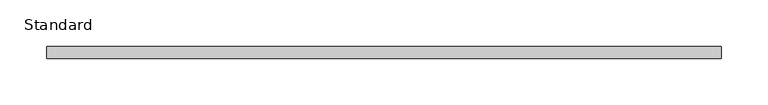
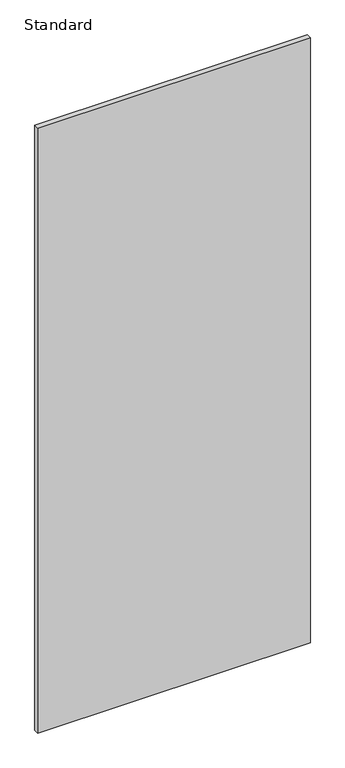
"""IFC4 building model written with IfcOpenShell, lengths in millimetres: furniture geometry, X_Partition-Compact Laminate-Duracube-Door : Standard."""

import ifcopenshell
import ifcopenshell.guid

model = None  # the IFC model being written
_history = None  # IfcOwnerHistory: only IFC2X3 demands one
_inside = {}  # id of a spatial element -> (the spatial element, [elements in it])
_under = {}  # id of a project, library or spatial element -> (it, [spatial elements below it])
_declared = {}  # id of a project -> (the project, [libraries it declares])
_typed = {}  # id of a type object -> (the type object, [elements of that type])
_made_of = {}  # id of a material, layer set ... -> (it, [elements and type objects made of it])


def new_model(schema):
    """Start an empty IFC model of exactly this schema.

    Asked for "IFC4X3", IfcOpenShell would pick the latest addendum, in which some entities
    have other attributes; the version numbers below select the first issue.
    IFC2X3 requires an IfcOwnerHistory on every rooted entity: one is made here for all.
    """
    global model, _history
    if schema == "IFC4X3":
        model = ifcopenshell.file(schema_version=(4, 3, 0, 0))
    else:
        model = ifcopenshell.file(schema=schema)
    _inside.clear()
    _under.clear()
    _declared.clear()
    _typed.clear()
    _made_of.clear()
    _history = None
    if model.schema == "IFC2X3":
        org = make("IfcOrganization", Name="unknown")
        user = make(
            "IfcPersonAndOrganization",
            ThePerson=make("IfcPerson", FamilyName="unknown"),
            TheOrganization=org,
        )
        app = make(
            "IfcApplication",
            ApplicationDeveloper=org,
            Version="unknown",
            ApplicationFullName="unknown",
            ApplicationIdentifier="unknown",
        )
        _history = make(
            "IfcOwnerHistory",
            OwningUser=user,
            OwningApplication=app,
            ChangeAction="ADDED",
            CreationDate=0,
        )
    return model


def make(cls, **values):
    """One entity of the class cls with the attributes given. An attribute that is None is left unset."""
    return model.create_entity(
        cls, **{name: value for name, value in values.items() if value is not None}
    )


def rooted(cls, **values):
    """An entity with a GlobalId (a new one), such as an element, a storey or a relation."""
    return make(cls, GlobalId=ifcopenshell.guid.new(), OwnerHistory=_history, **values)


def si_unit(unit_type, name, prefix=None):
    """IfcSIUnit, for example si_unit("LENGTHUNIT", "METRE", prefix="MILLI")."""
    return make("IfcSIUnit", UnitType=unit_type, Prefix=prefix, Name=name)


def assignment(units):
    """IfcUnitAssignment: the units of a project."""
    return None if units is None else make("IfcUnitAssignment", Units=units)


def point(xyz):
    """IfcCartesianPoint."""
    return None if xyz is None else make("IfcCartesianPoint", Coordinates=xyz)


def direction(xyz):
    """IfcDirection."""
    return None if xyz is None else make("IfcDirection", DirectionRatios=xyz)


def frame(location, z_axis=None, x_axis=None):
    """IfcAxis2Placement3D, a coordinate frame: its origin and axes. An axis left out is left unset."""
    return make(
        "IfcAxis2Placement3D",
        Location=point(location),
        Axis=direction(z_axis),
        RefDirection=direction(x_axis),
    )


def origin():
    """The frame at (0, 0, 0) with its axes left unset."""
    return frame((0.0, 0.0, 0.0))


def place(relative_to, where):
    """IfcLocalPlacement: puts the frame where relative to a parent placement (None: the world)."""
    return make(
        "IfcLocalPlacement", PlacementRelTo=relative_to, RelativePlacement=where
    )


def context(
    kind, dimensions, precision=None, world=None, true_north=None, identifier=None
):
    """IfcGeometricRepresentationContext, for example the 3D "Model" context."""
    return make(
        "IfcGeometricRepresentationContext",
        ContextIdentifier=identifier,
        ContextType=kind,
        CoordinateSpaceDimension=dimensions,
        Precision=precision,
        WorldCoordinateSystem=world,
        TrueNorth=true_north,
    )


def project(units=None, contexts=None):
    """IfcProject with its units and contexts."""
    return rooted(
        "IfcProject",
        Name="project",
        RepresentationContexts=contexts,
        UnitsInContext=assignment(units),
    )


def spatial(cls, under=None, at=None, **own):
    """A site, building, storey or space (cls), placed at a placement, below another one or the project."""
    s = rooted(cls, ObjectPlacement=at, **own)
    if under is not None:
        _under.setdefault(under.id(), (under, []))[1].append(s)
    return s


def polyline(points):
    """IfcPolyline through the points."""
    return make("IfcPolyline", Points=[point(p) for p in points])


def outline(outer, holes=None, kind="AREA"):
    """IfcArbitraryClosedProfileDef: a profile drawn as a closed curve; with holes, ...WithVoids."""
    if holes is None:
        return make("IfcArbitraryClosedProfileDef", ProfileType=kind, OuterCurve=outer)
    return make(
        "IfcArbitraryProfileDefWithVoids",
        ProfileType=kind,
        OuterCurve=outer,
        InnerCurves=holes,
    )


def extrude(swept, where, along, depth):
    """IfcExtrudedAreaSolid: the profile swept, set in the frame where, extruded along a direction by depth."""
    return make(
        "IfcExtrudedAreaSolid",
        SweptArea=swept,
        Position=where,
        ExtrudedDirection=direction(along),
        Depth=depth,
    )


def shape(context_of_items, identifier, shape_type, items):
    """IfcShapeRepresentation: the items that make up one representation, for example the "Body"."""
    return make(
        "IfcShapeRepresentation",
        ContextOfItems=context_of_items,
        RepresentationIdentifier=identifier,
        RepresentationType=shape_type,
        Items=items,
    )


def source(mapping_origin, context_of_items, identifier, shape_type, items):
    """IfcRepresentationMap: a shape defined once, which mapped items show again and again."""
    return make(
        "IfcRepresentationMap",
        MappingOrigin=mapping_origin,
        MappedRepresentation=shape(context_of_items, identifier, shape_type, items),
    )


def transform(
    local_origin,
    x_axis=None,
    y_axis=None,
    z_axis=None,
    scale=None,
    scale2=None,
    scale3=None,
    uniform=True,
):
    """IfcCartesianTransformationOperator3D, or its non-uniform kind. x_axis, y_axis, z_axis: its Axis1, 2, 3."""
    if uniform:
        return make(
            "IfcCartesianTransformationOperator3D",
            Axis1=direction(x_axis),
            Axis2=direction(y_axis),
            LocalOrigin=point(local_origin),
            Scale=scale,
            Axis3=direction(z_axis),
        )
    return make(
        "IfcCartesianTransformationOperator3DnonUniform",
        Axis1=direction(x_axis),
        Axis2=direction(y_axis),
        LocalOrigin=point(local_origin),
        Scale=scale,
        Axis3=direction(z_axis),
        Scale2=scale2,
        Scale3=scale3,
    )


def mapped(mapping_source, mapping_target):
    """IfcMappedItem: shows the shape of a source again, moved by a transform."""
    return make(
        "IfcMappedItem", MappingSource=mapping_source, MappingTarget=mapping_target
    )


def made_of(thing, what):
    """Note that an element or type object is made of a material, layer set ...; save() writes the relation."""
    if what is not None:
        _made_of.setdefault(what.id(), (what, []))[1].append(thing)
    return thing


def element(
    cls,
    number,
    at=None,
    inside=None,
    cuts=None,
    type_object=None,
    material=None,
    context=None,
    identifier="Body",
    shape_type=None,
    held_by="IfcProductDefinitionShape",
    body=None,
    shapes=None,
    **own,
):
    """One element of the class cls, such as IfcWall. Its Tag is "e" and its number.

    at: its placement. inside: the storey or other place that contains it. cuts: it is an
    opening in that element (IfcRelVoidsElement). A single representation is given by context,
    identifier, shape_type and body (its items); several are given by shapes. held_by: the class
    of the entity that holds the representations. save() writes the other relations.
    """
    e = rooted(cls, Tag="e%d" % number, ObjectPlacement=at, **own)
    if body is not None:
        shapes = [shape(context, identifier, shape_type, body)]
    if shapes is not None:
        e.Representation = make(held_by, Representations=shapes)
    if inside is not None:
        _inside.setdefault(inside.id(), (inside, []))[1].append(e)
    if cuts is not None:
        rooted(
            "IfcRelVoidsElement", RelatingBuildingElement=cuts, RelatedOpeningElement=e
        )
    if type_object is not None:
        _typed.setdefault(type_object.id(), (type_object, []))[1].append(e)
    return made_of(e, material)


def aggregate(whole, parts):
    """IfcRelAggregates: a whole, such as a stair, and the parts it consists of."""
    return rooted("IfcRelAggregates", RelatingObject=whole, RelatedObjects=parts)


def save(model, path):
    """Write the relations noted so far, then the file.

    IfcRelAggregates (storeys below a building ...), IfcRelContainedInSpatialStructure (elements
    in a storey), IfcRelDefinesByType, IfcRelAssociatesMaterial and IfcRelDeclares: one each for
    every whole, place, type object, material and project.
    """
    for whole, parts in _under.values():
        aggregate(whole, parts)
    for where, things in _inside.values():
        rooted(
            "IfcRelContainedInSpatialStructure",
            RelatedElements=things,
            RelatingStructure=where,
        )
    for kind, things in _typed.values():
        rooted("IfcRelDefinesByType", RelatedObjects=things, RelatingType=kind)
    for what, things in _made_of.values():
        rooted("IfcRelAssociatesMaterial", RelatedObjects=things, RelatingMaterial=what)
    for by, libraries in _declared.values():
        rooted("IfcRelDeclares", RelatingContext=by, RelatedDefinitions=libraries)
    model.write(path)


def standard_fdf829a3(model_context):
    return source(origin(), model_context, "Body", "SweptSolid", [
        extrude(outline(polyline([(407.2003264, 0.0), (407.2003264, -13.0), (-317.7996736, -13.0), (-317.7996736, 0.0), (407.2003264, 0.0)])), frame((0.0, 0.0, 200.0), z_axis=(0.0, 0.0, 1.0), x_axis=(1.0, 0.0, 0.0)), (0.0, 0.0, 1.0), 1700.0),
    ])


if __name__ == "__main__":
    model = new_model("IFC4")
    model_context = context("Model", 3, world=origin())
    ifc_project = project(units=[si_unit("LENGTHUNIT", "METRE", prefix="MILLI")], contexts=[model_context])
    site = spatial("IfcSite", under=ifc_project)
    building = spatial("IfcBuilding", under=site)
    placement = place(None, origin())
    standard_shape = standard_fdf829a3(model_context)
    element("IfcFurniture", 1, ObjectType="X_Partition-Compact Laminate-Duracube-Door : Standard", at=placement, inside=building, context=model_context, shape_type="MappedRepresentation", body=[
        mapped(standard_shape, transform((0.0, 0.0, 0.0), x_axis=(1.0, 0.0, 0.0), y_axis=(0.0, 1.0, 0.0), z_axis=(0.0, 0.0, 1.0))),
    ])
    save(model, "model.ifc")
